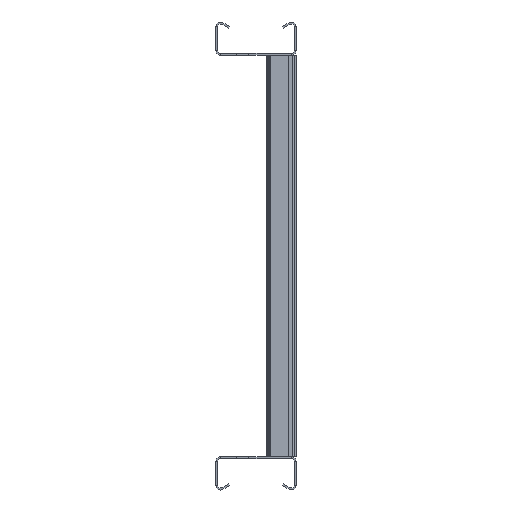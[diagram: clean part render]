
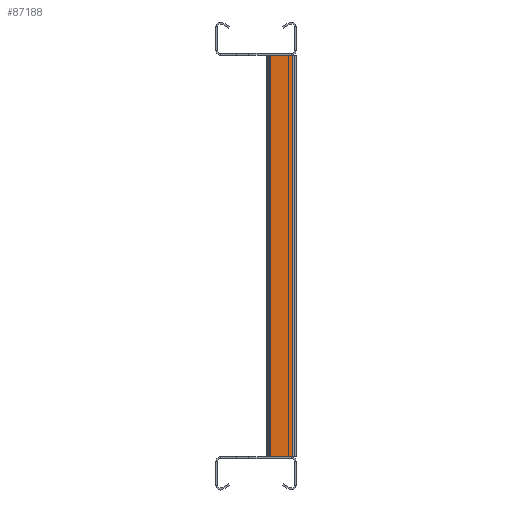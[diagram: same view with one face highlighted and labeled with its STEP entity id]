
A CAD part, left-side view. The second image highlights one B-rep face of the part: STEP entity #87188.
In plain terms, the highlighted planar face has unit normal (-1, 0, 0).
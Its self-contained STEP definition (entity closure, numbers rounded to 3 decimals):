
#4523=LINE('',#130188,#13379);
#4524=LINE('',#130190,#13380);
#4525=LINE('',#130192,#13381);
#4526=LINE('',#130193,#13382);
#13379=VECTOR('',#104382,10.);
#13380=VECTOR('',#104383,10.);
#13381=VECTOR('',#104384,10.);
#13382=VECTOR('',#104385,10.);
#20119=PLANE('',#91914);
#24100=FACE_OUTER_BOUND('',#29144,.T.);
#29144=EDGE_LOOP('',(#64861,#64862,#64863,#64864));
#38103=VERTEX_POINT('',#130183);
#38104=VERTEX_POINT('',#130187);
#38105=VERTEX_POINT('',#130189);
#38106=VERTEX_POINT('',#130191);
#47886=EDGE_CURVE('',#38104,#38103,#4523,.T.);
#47887=EDGE_CURVE('',#38105,#38104,#4524,.T.);
#47888=EDGE_CURVE('',#38105,#38106,#4525,.T.);
#47889=EDGE_CURVE('',#38103,#38106,#4526,.T.);
#64861=ORIENTED_EDGE('',*,*,#47886,.F.);
#64862=ORIENTED_EDGE('',*,*,#47887,.F.);
#64863=ORIENTED_EDGE('',*,*,#47888,.T.);
#64864=ORIENTED_EDGE('',*,*,#47889,.F.);
#87188=ADVANCED_FACE('',(#24100),#20119,.T.);
#91914=AXIS2_PLACEMENT_3D('',#130186,#104380,#104381);
#104380=DIRECTION('center_axis',(-1.,0.,0.));
#104381=DIRECTION('ref_axis',(0.,0.,
-1.));
#104382=DIRECTION('',(0.,0.,1.));
#104383=DIRECTION('',(0.,1.,0.));
#104384=DIRECTION('',(0.,0.,1.));
#104385=DIRECTION('',(0.,-1.,0.));
#130183=CARTESIAN_POINT('',(-2894.75,-11.,150.));
#130186=CARTESIAN_POINT('Origin',(-2894.75,9.143,0.));
#130187=CARTESIAN_POINT('',(-2894.75,-11.,-150.));
#130188=CARTESIAN_POINT('',(-2894.75,-11.,0.));
#130189=CARTESIAN_POINT('',(-2894.75,-27.,-150.));
#130190=CARTESIAN_POINT('',(-2894.75,56.822,-150.));
#130191=CARTESIAN_POINT('',(-2894.75,-27.,150.));
#130192=CARTESIAN_POINT('',(-2894.75,-27.,0.));
#130193=CARTESIAN_POINT('',(-2894.75,-41.536,150.));
